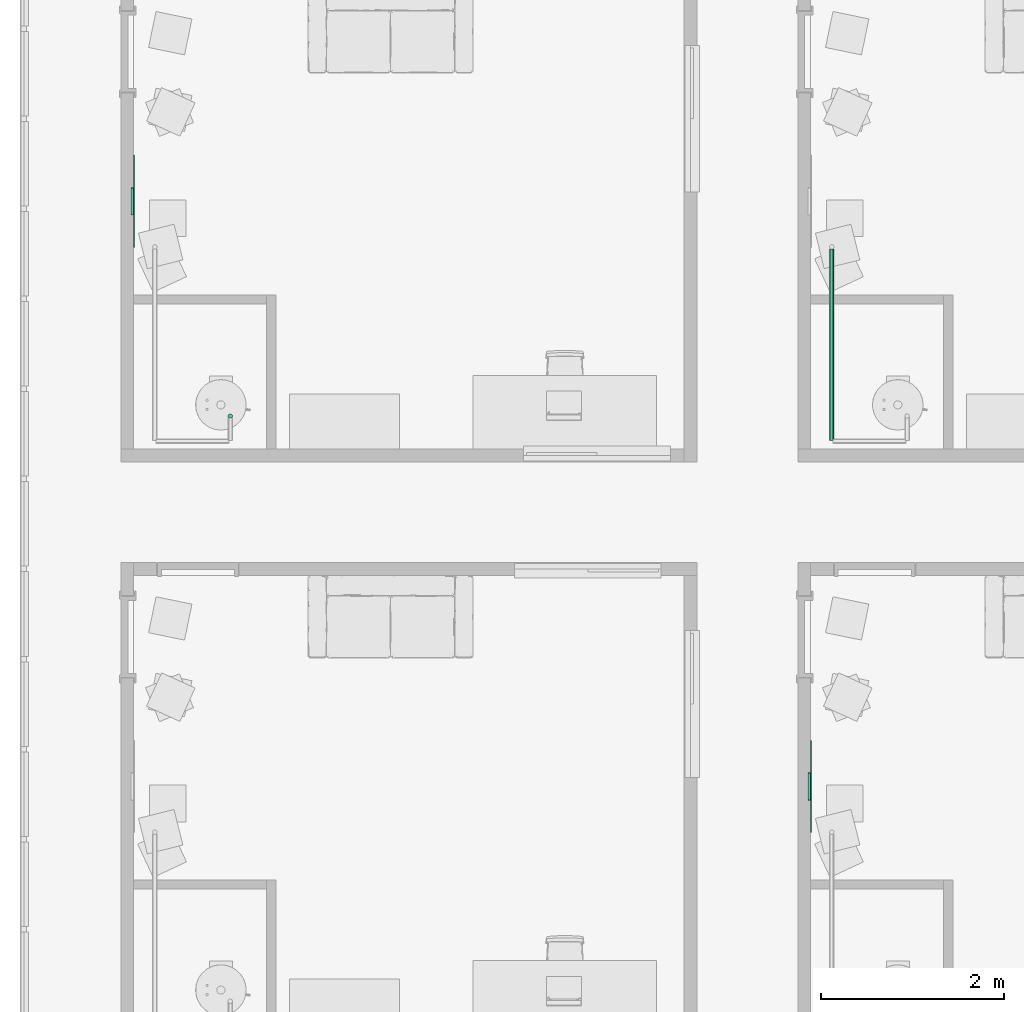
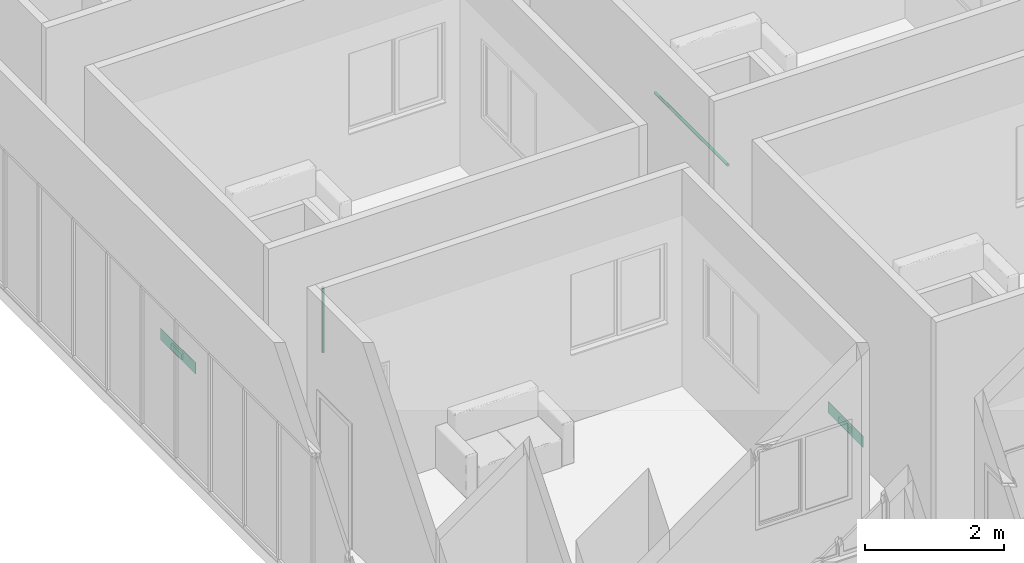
# One storey, part 17 of 71: 2 air terminals, 2 pipe segments.
"""IFC4 building model written with IfcOpenShell, lengths in centimetres."""

from ifc_helpers import new_model, entity, si_unit, converted_unit, derived_unit, direction, frame, origin, place, context, subcontext, project, spatial, arc, indexed_curve, outline, extrude, source, transform, mapped, material, constituent, constituent_set, type_object, type_shapes, element, save


model = new_model("IFC4")

# Units and contexts
model_context = context("Model", 3, precision=0.001, world=origin(), true_north=direction((6.123233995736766e-17, 1.0)))
body_context = subcontext(model_context, "Body", "Model", "MODEL_VIEW")
ifc_project = project(units=[si_unit("LENGTHUNIT", "METRE", prefix="CENTI"), si_unit("AREAUNIT", "SQUARE_METRE"), si_unit("VOLUMEUNIT", "CUBIC_METRE"), derived_unit("THERMALTRANSMITTANCEUNIT", [(si_unit("MASSUNIT", "GRAM", prefix="KILO"), 1), (si_unit("THERMODYNAMICTEMPERATUREUNIT", "KELVIN"), -1), (si_unit("TIMEUNIT", "SECOND"), -3)]), converted_unit("PLANEANGLEUNIT", "DEGREE", entity("IfcPlaneAngleMeasure", 0.017453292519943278), si_unit("PLANEANGLEUNIT", "RADIAN"), dimensions=[0, 0, 0, 0, 0, 0, 0]), derived_unit("MASSDENSITYUNIT", [(si_unit("MASSUNIT", "GRAM", prefix="KILO"), 1), (si_unit("LENGTHUNIT", "METRE"), -3)]), derived_unit("VAPORPERMEABILITYUNIT", [(si_unit("LENGTHUNIT", "METRE"), -1), (si_unit("TIMEUNIT", "SECOND"), 1)]), derived_unit("USERDEFINED", [(si_unit("MASSUNIT", "GRAM", prefix="KILO"), 1), (si_unit("TIMEUNIT", "SECOND"), -3), (si_unit("LENGTHUNIT", "METRE"), 3), (si_unit("ELECTRICCURRENTUNIT", "AMPERE"), -2)]), derived_unit("SPECIFICHEATCAPACITYUNIT", [(si_unit("THERMODYNAMICTEMPERATUREUNIT", "KELVIN"), -1), (si_unit("LENGTHUNIT", "METRE"), 2), (si_unit("TIMEUNIT", "SECOND"), -2)]), derived_unit("THERMALCONDUCTANCEUNIT", [(si_unit("MASSUNIT", "GRAM", prefix="KILO"), 1), (si_unit("THERMODYNAMICTEMPERATUREUNIT", "KELVIN"), -1), (si_unit("TIMEUNIT", "SECOND"), -3), (si_unit("LENGTHUNIT", "METRE"), 1)]), si_unit("PRESSUREUNIT", "PASCAL"), derived_unit("MODULUSOFELASTICITYUNIT", [(si_unit("MASSUNIT", "GRAM", prefix="KILO"), 1), (si_unit("LENGTHUNIT", "METRE"), -1), (si_unit("TIMEUNIT", "SECOND"), -2)]), derived_unit("THERMALEXPANSIONCOEFFICIENTUNIT", [(si_unit("THERMODYNAMICTEMPERATUREUNIT", "KELVIN"), -1)])], contexts=[model_context])

# Site, building, storey, space
site_placement = place(None, origin())
site = spatial("IfcSite", under=ifc_project, at=site_placement, Name="Default", CompositionType="ELEMENT")
building_placement = place(site_placement, origin())
building = spatial("IfcBuilding", under=site, at=building_placement, Name="IDS Escape Game Building", CompositionType="ELEMENT")
storey_placement = place(building_placement, frame((0.0, 0.0, 400.0)))
storey = spatial("IfcBuildingStorey", under=building, at=storey_placement, Name="01_First Floor", CompositionType="ELEMENT", Elevation=399.99999999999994)
space_1_placement = place(storey_placement, origin())
space_1 = spatial("IfcSpace", under=storey, at=space_1_placement, Name="44", CompositionType="ELEMENT", PredefinedType="NOTDEFINED")

# Air terminal
ifc_material_1 = material(Name="TB_LVC_referentievlak_00_gen_BERSnl", Category="BE Default")
ifc_constituent_1 = constituent(ifc_material_1, Name="TB_LVC_referentievlak_00_gen_BERSnl", Category="BE Default", fraction=0.00014157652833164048)
ifc_material_2 = material(Name="ARC_FME.h2_staal_00_gen_BERSnl", Category="h - metaal")
ifc_constituent_2 = constituent(ifc_material_2, Name="ARC_FME.h2_staal_00_gen_BERSnl", Category="h - metaal", fraction=0.9998584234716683)
ifc_constituent_set_1 = constituent_set(constituents=[ifc_constituent_1, ifc_constituent_2])
ifc_constituent_3 = constituent(ifc_material_1, Name="BE Referentievlak", Category="BE Default", fraction=0.00014157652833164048)
ifc_constituent_4 = constituent(ifc_material_2, Name="Terminals", Category="h - metaal", fraction=0.9998584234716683)
ifc_constituent_set_2 = constituent_set(constituents=[ifc_constituent_3, ifc_constituent_4])
air_terminal_type = type_object("IfcAirTerminalType", Name="TB_57_AIR_FB_aanzuigrooster - 1 rechthoekige aansluiting - calculated flow_gen_BERSnl:Air Terminal - Exhaust", PredefinedType="GRILLE", material=ifc_constituent_set_2)
shared_shape = source(origin(), body_context, "Body", "SweptSolid", [
    extrude(outline(indexed_curve([(-0.5, -2.0290176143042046e-15), (6.8507733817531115e-16, -0.5000000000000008), (0.5, 2.0290176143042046e-15), (-5.361679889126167e-16, 0.49999999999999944)], segments=[arc(1, 2, 3), arc(3, 4, 1)], self_intersect=False)), frame((0.0, 0.0, 0.0), z_axis=(1.7453292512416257e-05, 0.0, 1.0), x_axis=(0.0, 1.0, 0.0)), (0.0, 0.0, 1.0), 0.09999999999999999),
    extrude(outline(indexed_curve([(-14.900000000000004, -4.9), (14.900000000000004, -4.9), (14.900000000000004, 4.9), (-14.900000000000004, 4.9), (-14.900000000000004, -4.9)], self_intersect=False)), frame((-4.886921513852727e-05, 0.0, -2.7999999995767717)), (0.0, 0.0, 1.0), 2.7999999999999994),
    extrude(outline(indexed_curve([(-50.0, -10.0), (50.0, -10.0), (50.0, 10.0), (-50.0, 10.0), (-50.0, -10.0)], self_intersect=False)), frame((0.0, 0.0, 0.0), z_axis=(0.0, 0.0, 1.0), x_axis=(-1.0, 0.0, 0.0)), (0.0, 0.0, 1.0), 0.6999999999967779),
])
type_shapes(air_terminal_type, [shared_shape])
air_terminal_1_placement = place(space_1_placement, frame((745.0, 921.0, 24.0), z_axis=(1.0, 0.0, 0.0), x_axis=(0.0, 1.0, 0.0)))
element("IfcAirTerminal", 1, at=air_terminal_1_placement, inside=space_1, type_object=air_terminal_type, material=ifc_constituent_set_1, Name="TB_57_AIR_FB_aanzuigrooster - 1 rechthoekige aansluiting - calculated flow_gen_BERSnl:Air Terminal - Exhaust", ObjectType="TB_57_AIR_FB_aanzuigrooster - 1 rechthoekige aansluiting - calculated flow_gen_BERSnl:Air Terminal - Exhaust", PredefinedType="GRILLE", context=body_context, shape_type="MappedRepresentation", body=[
    mapped(shared_shape, transform((0.0, 0.0, 0.0), scale=1.0)),
])

# Space
space_2_placement = place(storey_placement, origin())
space_2 = spatial("IfcSpace", under=storey, at=space_2_placement, Name="50", CompositionType="ELEMENT", PredefinedType="NOTDEFINED")

# Air terminal
ifc_constituent_5 = constituent(ifc_material_1, Name="TB_LVC_referentievlak_00_gen_BERSnl", Category="BE Default", fraction=0.00014157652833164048)
ifc_constituent_6 = constituent(ifc_material_2, Name="ARC_FME.h2_staal_00_gen_BERSnl", Category="h - metaal", fraction=0.9998584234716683)
ifc_constituent_set_3 = constituent_set(constituents=[ifc_constituent_5, ifc_constituent_6])
air_terminal_2_placement = place(space_2_placement, frame((7.0, 1559.0, 24.0), z_axis=(1.0, 0.0, 0.0), x_axis=(0.0, 1.0, 0.0)))
element("IfcAirTerminal", 2, at=air_terminal_2_placement, inside=space_2, type_object=air_terminal_type, material=ifc_constituent_set_3, Name="TB_57_AIR_FB_aanzuigrooster - 1 rechthoekige aansluiting - calculated flow_gen_BERSnl:Air Terminal - Exhaust", ObjectType="TB_57_AIR_FB_aanzuigrooster - 1 rechthoekige aansluiting - calculated flow_gen_BERSnl:Air Terminal - Exhaust", PredefinedType="GRILLE", context=body_context, shape_type="MappedRepresentation", body=[
    mapped(shared_shape, transform((0.0, 0.0, 0.0), scale=1.0)),
])

# Pipe segments
pipe_segment_type = type_object("IfcPipeSegmentType", Name="Pipe Types:Piping Aluminum", PredefinedType="NOTDEFINED")
pipe_segment_1_placement = place(storey_placement, origin())
element("IfcPipeSegment", 3, at=pipe_segment_1_placement, inside=storey, type_object=pipe_segment_type, Name="Pipe Types:Piping Aluminum", ObjectType="Pipe Types:Piping Aluminum", PredefinedType="NOTDEFINED", context=body_context, shape_type="SweptSolid", body=[
    extrude(outline(indexed_curve([(2.412999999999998, 0.0), (1.7062486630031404, 1.7062486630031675), (-1.3535839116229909e-14, 2.412999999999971), (-1.7062486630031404, 1.7062486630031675), (-2.412999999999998, 0.0), (-1.706248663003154, -1.7062486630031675), (-1.3535839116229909e-14, -2.412999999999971), (1.7062486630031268, -1.7062486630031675)], segments=[arc(1, 2, 3), arc(3, 4, 5), arc(5, 6, 7), arc(7, 8, 1)], self_intersect=False)), frame((112.15000000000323, 1324.9000000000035, 128.0), z_axis=(0.0, 0.0, 1.0), x_axis=(-1.0, 0.0, 0.0)), (0.0, 0.0, 1.0), 112.90000000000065),
])
pipe_segment_2_placement = place(storey_placement, origin())
element("IfcPipeSegment", 4, at=pipe_segment_2_placement, inside=storey, type_object=pipe_segment_type, Name="Pipe Types:Piping Aluminum", ObjectType="Pipe Types:Piping Aluminum", PredefinedType="NOTDEFINED", context=body_context, shape_type="SweptSolid", body=[
    extrude(outline(indexed_curve([(2.412999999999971, 0.0), (1.7062486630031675, 1.7062486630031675), (0.0, 2.412999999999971), (-1.7062486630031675, 1.7062486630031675), (-2.412999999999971, 0.0), (-1.7062486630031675, -1.7062486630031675), (0.0, -2.412999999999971), (1.7062486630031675, -1.7062486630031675)], segments=[arc(1, 2, 3), arc(3, 4, 5), arc(5, 6, 7), arc(7, 8, 1)], self_intersect=False)), frame((768.0467168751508, 1298.3648279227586, 242.0), z_axis=(0.0, 1.0, 0.0), x_axis=(1.0, 0.0, 0.0)), (0.0, 0.0, 1.0), 208.80000000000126),
])

save(model, "model.ifc")
